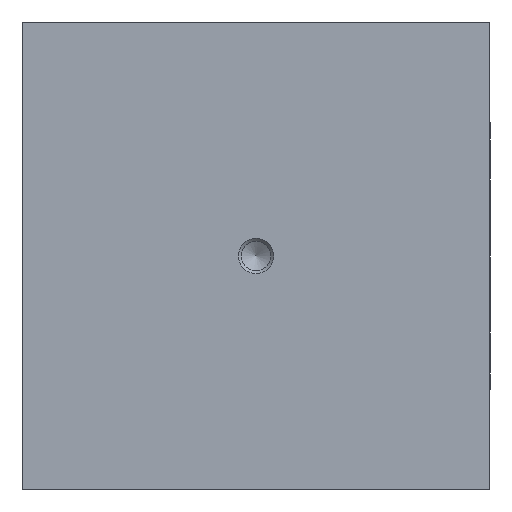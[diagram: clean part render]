
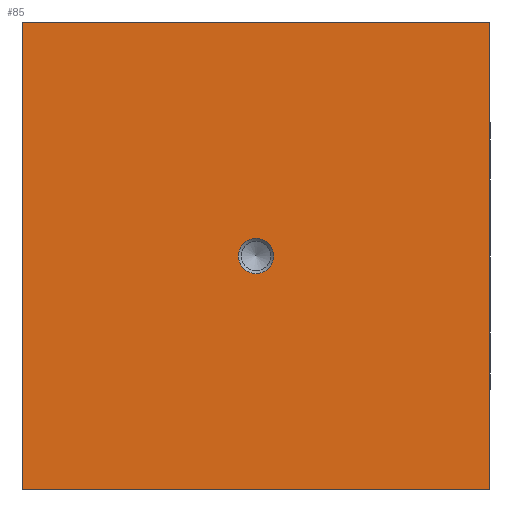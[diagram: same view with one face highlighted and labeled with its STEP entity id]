
A CAD part, left-side view. The second image highlights one B-rep face of the part: STEP entity #85.
In plain terms, the highlighted planar face has unit normal (-1, 0, 0).
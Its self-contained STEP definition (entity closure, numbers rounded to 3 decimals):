
#85 = ADVANCED_FACE( '', ( #177, #178 ), #179, .F. );
#177 = FACE_BOUND( '', #261, .T. );
#178 = FACE_OUTER_BOUND( '', #262, .T. );
#179 = PLANE( '', #263 );
#261 = EDGE_LOOP( '', ( #424 ) );
#262 = EDGE_LOOP( '', ( #425, #426, #427, #428 ) );
#263 = AXIS2_PLACEMENT_3D( '', #429, #430, #431 );
#424 = ORIENTED_EDGE( '', *, *, #490, .T. );
#425 = ORIENTED_EDGE( '', *, *, #475, .F. );
#426 = ORIENTED_EDGE( '', *, *, #459, .F. );
#427 = ORIENTED_EDGE( '', *, *, #472, .F. );
#428 = ORIENTED_EDGE( '', *, *, #486, .F. );
#429 = CARTESIAN_POINT( '', ( 0., -50., -50. ) );
#430 = DIRECTION( '', ( 1., 0., 0. ) );
#431 = DIRECTION( '', ( 0., 1., 0. ) );
#459 = EDGE_CURVE( '', #540, #542, #543, .T. );
#472 = EDGE_CURVE( '', #560, #540, #562, .T. );
#475 = EDGE_CURVE( '', #542, #564, #566, .T. );
#486 = EDGE_CURVE( '', #564, #560, #577, .T. );
#490 = EDGE_CURVE( '', #582, #582, #583, .T. );
#540 = VERTEX_POINT( '', #646 );
#542 = VERTEX_POINT( '', #649 );
#543 = LINE( '', #650, #651 );
#560 = VERTEX_POINT( '', #669 );
#562 = LINE( '', #672, #673 );
#564 = VERTEX_POINT( '', #675 );
#566 = LINE( '', #678, #679 );
#577 = LINE( '', #691, #692 );
#582 = VERTEX_POINT( '', #697 );
#583 = CIRCLE( '', #698, 3.75 );
#646 = CARTESIAN_POINT( '', ( 0., 50., 50. ) );
#649 = CARTESIAN_POINT( '', ( 0., -50., 50. ) );
#650 = CARTESIAN_POINT( '', ( 0., 50., 50. ) );
#651 = VECTOR( '', #738, 1000. );
#669 = CARTESIAN_POINT( '', ( 0., 50., -50. ) );
#672 = CARTESIAN_POINT( '', ( 0., 50., -50. ) );
#673 = VECTOR( '', #762, 1000. );
#675 = CARTESIAN_POINT( '', ( 0., -50., -50. ) );
#678 = CARTESIAN_POINT( '', ( 0., -50., 50. ) );
#679 = VECTOR( '', #764, 1000. );
#691 = CARTESIAN_POINT( '', ( 0., -50., -50. ) );
#692 = VECTOR( '', #775, 1000. );
#697 = CARTESIAN_POINT( '', ( 0., 3.75, 0. ) );
#698 = AXIS2_PLACEMENT_3D( '', #779, #780, #781 );
#738 = DIRECTION( '', ( 0., -1., 0. ) );
#762 = DIRECTION( '', ( 0., 0., 1. ) );
#764 = DIRECTION( '', ( 0., 0., -1. ) );
#775 = DIRECTION( '', ( 0., 1., 0. ) );
#779 = CARTESIAN_POINT( '', ( 0., 0., 0. ) );
#780 = DIRECTION( '', ( 1., 0., 0. ) );
#781 = DIRECTION( '', ( 0., 1., 0. ) );
